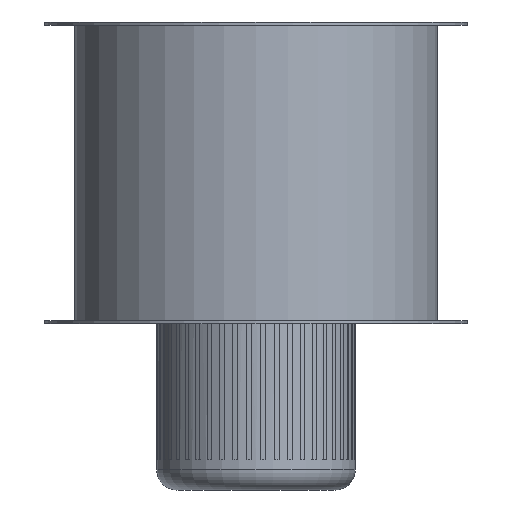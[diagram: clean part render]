
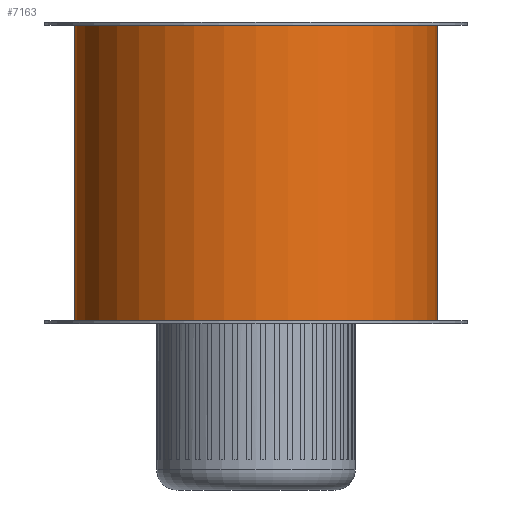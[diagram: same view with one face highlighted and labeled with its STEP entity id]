
A CAD part, front view. The second image highlights one B-rep face of the part: STEP entity #7163.
In plain terms, the highlighted cylindrical face has radius 180.5 mm (diameter 361 mm), a full revolution.
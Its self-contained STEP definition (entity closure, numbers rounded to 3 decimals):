
#405=FACE_BOUND('',#1285,.T.);
#406=FACE_BOUND('',#1286,.T.);
#804=FACE_OUTER_BOUND('',#1284,.T.);
#1284=EDGE_LOOP('',(#6530,#6531,#6532,#6533));
#1285=EDGE_LOOP('',(#6534,#6535));
#1286=EDGE_LOOP('',(#6536,#6537,#6538,#6539));
#1342=B_SPLINE_CURVE_WITH_KNOTS('',3,(#11386,#11387,#11388,#11389,#11390,
#11391,#11392,#11393,#11394,#11395),.UNSPECIFIED.,.F.,.F.,(4,2,2,2,4),(0.,
0.28,0.56,0.896,1.233),
 .UNSPECIFIED.);
#1343=B_SPLINE_CURVE_WITH_KNOTS('',3,(#11396,#11397,#11398,#11399,#11400,
#11401,#11402,#11403,#11404,#11405,#11406,#11407,#11408,#11409,#11410,#11411,
#11412,#11413,#11414,#11415,#11416,#11417,#11418,#11419,#11420,#11421),
 .UNSPECIFIED.,.F.,.F.,(4,2,2,2,2,2,2,2,2,2,2,2,4),(1.233,1.578,
1.924,2.205,2.486,2.767,3.048,
3.393,3.738,4.075,4.412,4.691,
4.971),.UNSPECIFIED.);
#1692=CIRCLE('',#7669,180.5);
#1693=CIRCLE('',#7671,180.5);
#1790=CIRCLE('',#7848,180.5);
#1793=CIRCLE('',#7853,180.5);
#2213=LINE('',#11486,#2737);
#2221=LINE('',#11501,#2745);
#2317=LINE('',#13636,#2841);
#2737=VECTOR('',#9240,10.);
#2745=VECTOR('',#9252,10.);
#2841=VECTOR('',#9724,180.5);
#3308=VERTEX_POINT('',#11384);
#3309=VERTEX_POINT('',#11385);
#3317=VERTEX_POINT('',#11482);
#3319=VERTEX_POINT('',#11485);
#3323=VERTEX_POINT('',#11497);
#3324=VERTEX_POINT('',#11499);
#3483=VERTEX_POINT('',#13623);
#3486=VERTEX_POINT('',#13632);
#4163=EDGE_CURVE('',#3308,#3309,#1342,.T.);
#4164=EDGE_CURVE('',#3309,#3308,#1343,.T.);
#4179=EDGE_CURVE('',#3319,#3317,#2213,.T.);
#4187=EDGE_CURVE('',#3323,#3324,#2221,.T.);
#4188=EDGE_CURVE('',#3317,#3323,#1692,.T.);
#4189=EDGE_CURVE('',#3324,#3319,#1693,.T.);
#4502=EDGE_CURVE('',#3483,#3483,#1790,.T.);
#4506=EDGE_CURVE('',#3486,#3486,#1793,.T.);
#4507=EDGE_CURVE('',#3486,#3483,#2317,.T.);
#6530=ORIENTED_EDGE('',*,*,#4506,.T.);
#6531=ORIENTED_EDGE('',*,*,#4507,.T.);
#6532=ORIENTED_EDGE('',*,*,#4502,.T.);
#6533=ORIENTED_EDGE('',*,*,#4507,.F.);
#6534=ORIENTED_EDGE('',*,*,#4163,.T.);
#6535=ORIENTED_EDGE('',*,*,#4164,.T.);
#6536=ORIENTED_EDGE('',*,*,#4187,.T.);
#6537=ORIENTED_EDGE('',*,*,#4189,.T.);
#6538=ORIENTED_EDGE('',*,*,#4179,.T.);
#6539=ORIENTED_EDGE('',*,*,#4188,.T.);
#6639=CYLINDRICAL_SURFACE('',#7855,180.5);
#7163=ADVANCED_FACE('',(#804,#405,#406),#6639,.T.);
#7669=AXIS2_PLACEMENT_3D('',#11503,#9255,#9256);
#7671=AXIS2_PLACEMENT_3D('',#11505,#9259,#9260);
#7848=AXIS2_PLACEMENT_3D('',#13624,#9707,#9708);
#7853=AXIS2_PLACEMENT_3D('',#13633,#9718,#9719);
#7855=AXIS2_PLACEMENT_3D('',#13635,#9722,#9723);
#9240=DIRECTION('',(0.,0.,-1.));
#9252=DIRECTION('',(0.,0.,1.));
#9255=DIRECTION('center_axis',(0.,0.,-1.));
#9256=DIRECTION('ref_axis',(-1.,0.,0.));
#9259=DIRECTION('center_axis',(0.,0.,1.));
#9260=DIRECTION('ref_axis',(-1.,0.,0.));
#9707=DIRECTION('center_axis',(0.,0.,1.));
#9708=DIRECTION('ref_axis',(-1.,0.,0.));
#9718=DIRECTION('center_axis',(0.,0.,-1.));
#9719=DIRECTION('ref_axis',(-1.,0.,0.));
#9722=DIRECTION('center_axis',(0.,0.,1.));
#9723=DIRECTION('ref_axis',(-1.,0.,0.));
#9724=DIRECTION('',(0.,0.,-1.));
#11384=CARTESIAN_POINT('',(-91.111,155.817,-88.));
#11385=CARTESIAN_POINT('',(-98.611,151.182,-80.5));
#11386=CARTESIAN_POINT('Ctrl Pts',(-91.111,155.817,-88.));
#11387=CARTESIAN_POINT('Ctrl Pts',(-91.111,155.817,-87.067));
#11388=CARTESIAN_POINT('Ctrl Pts',(-91.296,155.709,-86.084));
#11389=CARTESIAN_POINT('Ctrl Pts',(-92.018,155.284,-84.298));
#11390=CARTESIAN_POINT('Ctrl Pts',(-92.553,154.967,-83.496));
#11391=CARTESIAN_POINT('Ctrl Pts',(-93.853,154.184,-82.111));
#11392=CARTESIAN_POINT('Ctrl Pts',(-94.743,153.64,-81.492));
#11393=CARTESIAN_POINT('Ctrl Pts',(-96.652,152.446,-80.687));
#11394=CARTESIAN_POINT('Ctrl Pts',(-97.671,151.795,-80.5));
#11395=CARTESIAN_POINT('Ctrl Pts',(-98.611,151.182,-80.5));
#11396=CARTESIAN_POINT('Ctrl Pts',(-98.611,151.182,-80.5));
#11397=CARTESIAN_POINT('Ctrl Pts',(-99.575,150.553,-80.5));
#11398=CARTESIAN_POINT('Ctrl Pts',(-100.606,149.866,-80.696));
#11399=CARTESIAN_POINT('Ctrl Pts',(-102.522,148.563,-81.516));
#11400=CARTESIAN_POINT('Ctrl Pts',(-103.406,147.946,-82.14));
#11401=CARTESIAN_POINT('Ctrl Pts',(-104.686,147.043,-83.521));
#11402=CARTESIAN_POINT('Ctrl Pts',(-105.211,146.667,-84.312));
#11403=CARTESIAN_POINT('Ctrl Pts',(-105.924,146.152,-86.082));
#11404=CARTESIAN_POINT('Ctrl Pts',(-106.111,146.016,-87.063));
#11405=CARTESIAN_POINT('Ctrl Pts',(-106.111,146.016,-88.937));
#11406=CARTESIAN_POINT('Ctrl Pts',(-105.924,146.152,-89.918));
#11407=CARTESIAN_POINT('Ctrl Pts',(-105.211,146.667,-91.688));
#11408=CARTESIAN_POINT('Ctrl Pts',(-104.686,147.043,-92.479));
#11409=CARTESIAN_POINT('Ctrl Pts',(-103.406,147.946,-93.86));
#11410=CARTESIAN_POINT('Ctrl Pts',(-102.522,148.563,-94.484));
#11411=CARTESIAN_POINT('Ctrl Pts',(-100.606,149.866,-95.304));
#11412=CARTESIAN_POINT('Ctrl Pts',(-99.575,150.553,-95.5));
#11413=CARTESIAN_POINT('Ctrl Pts',(-97.671,151.795,-95.5));
#11414=CARTESIAN_POINT('Ctrl Pts',(-96.652,152.446,-95.313));
#11415=CARTESIAN_POINT('Ctrl Pts',(-94.743,153.64,-94.508));
#11416=CARTESIAN_POINT('Ctrl Pts',(-93.853,154.184,-93.889));
#11417=CARTESIAN_POINT('Ctrl Pts',(-92.553,154.967,-92.504));
#11418=CARTESIAN_POINT('Ctrl Pts',(-92.018,155.284,-91.702));
#11419=CARTESIAN_POINT('Ctrl Pts',(-91.296,155.709,-89.916));
#11420=CARTESIAN_POINT('Ctrl Pts',(-91.111,155.817,-88.933));
#11421=CARTESIAN_POINT('Ctrl Pts',(-91.111,155.817,-88.));
#11482=CARTESIAN_POINT('',(-65.741,168.102,-138.));
#11485=CARTESIAN_POINT('',(-65.741,168.102,-38.));
#11486=CARTESIAN_POINT('',(-65.741,168.102,0.));
#11497=CARTESIAN_POINT('',(65.741,168.102,-138.));
#11499=CARTESIAN_POINT('',(65.741,168.102,-38.));
#11501=CARTESIAN_POINT('',(65.741,168.102,0.));
#11503=CARTESIAN_POINT('Origin',(0.,0.,-138.));
#11505=CARTESIAN_POINT('Origin',(0.,0.,-38.));
#13623=CARTESIAN_POINT('',(180.5,0.,-147.));
#13624=CARTESIAN_POINT('Origin',(0.,0.,-147.));
#13632=CARTESIAN_POINT('',(180.5,0.,147.));
#13633=CARTESIAN_POINT('Origin',(0.,0.,147.));
#13635=CARTESIAN_POINT('Origin',(0.,0.,0.));
#13636=CARTESIAN_POINT('',(180.5,0.,0.));
